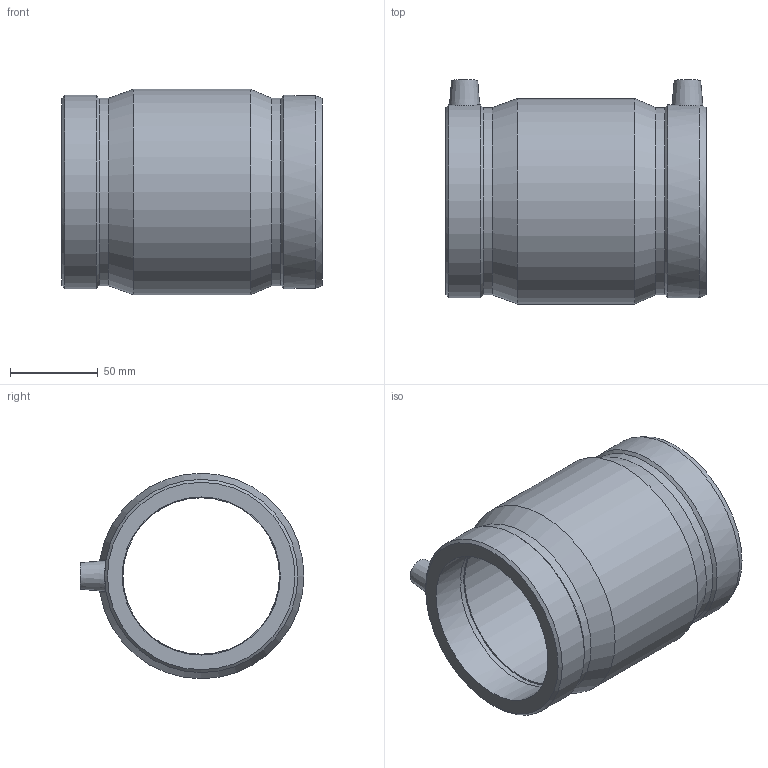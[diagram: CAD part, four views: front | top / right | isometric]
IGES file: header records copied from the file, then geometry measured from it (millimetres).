
Global section: file name: 450104090.ipt; native system: Autodesk Inventor 2015; preprocessor: unknown; author: KIM; date: 20171106.093350; units: millimetre
Bounding box: 148 x 127.5 x 117 mm (x, y, z)
Volume: 551541.5 mm3; surface area: 104347.5 mm2
Topology: 1 solids, 1 shells, 38 faces, 84 edges, 56 vertices
Faces by surface type: plane 12, cone 10, revolution 9, cylinder 7
Full cylindrical faces by diameter (mm): 4 x2, 106.681 x2, 109.98 x2, 117 x1
